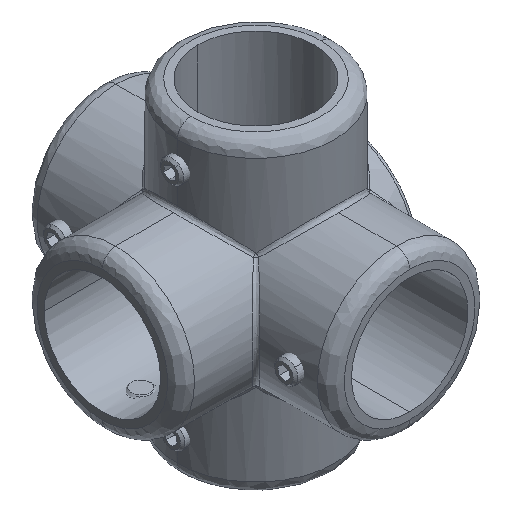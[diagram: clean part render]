
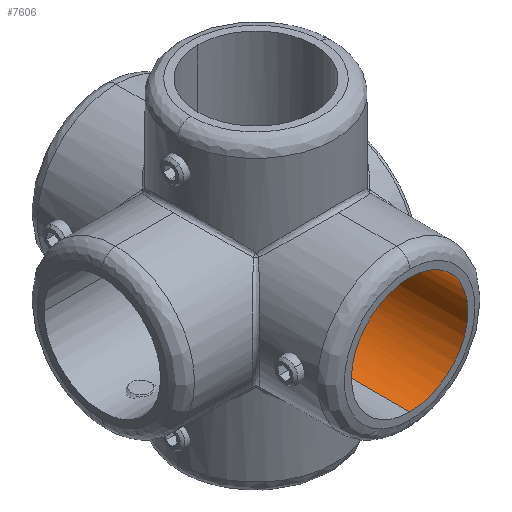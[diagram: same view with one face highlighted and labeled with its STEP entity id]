
A CAD part, isometric view. The second image highlights one B-rep face of the part: STEP entity #7606.
In plain terms, the highlighted cylindrical face has radius 15.15 mm (diameter 30.3 mm), a partial arc.
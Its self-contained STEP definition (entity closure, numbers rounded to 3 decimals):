
#128 = EDGE_CURVE ( 'NONE', #3438, #8969, #9366, .T. ) ;
#578 = CARTESIAN_POINT ( 'NONE',  ( 0., -40., 15.15 ) ) ;
#759 = ORIENTED_EDGE ( 'NONE', *, *, #7221, .T. ) ;
#786 = CARTESIAN_POINT ( 'NONE',  ( 15.15, -8.875, -8.875 ) ) ;
#821 = CARTESIAN_POINT ( 'NONE',  ( 8.875, -15.15, -15.15 ) ) ;
#1114 = DIRECTION ( 'NONE',  ( 0., -1., 0. ) ) ;
#1134 = CARTESIAN_POINT ( 'NONE',  ( 0., 0., 0. ) ) ;
#1186 = AXIS2_PLACEMENT_3D ( 'NONE', #3328, #7823, #4888 ) ;
#1267 = CARTESIAN_POINT ( 'NONE',  ( 0., -40., -15.15 ) ) ;
#1329 = AXIS2_PLACEMENT_3D ( 'NONE', #1134, #3987, #4737 ) ;
#1557 =( BOUNDED_CURVE ( )  B_SPLINE_CURVE ( 3, ( #5213, #786, #821, #2978 ),
 .UNSPECIFIED., .F., .F. ) 
 B_SPLINE_CURVE_WITH_KNOTS ( ( 4, 4 ),
 ( 4.712, 6.283 ),
 .UNSPECIFIED. ) 
 CURVE ( )  GEOMETRIC_REPRESENTATION_ITEM ( )  RATIONAL_B_SPLINE_CURVE ( ( 1., 0.805, 0.805, 1. ) ) 
 REPRESENTATION_ITEM ( '' )  );
#1607 = CYLINDRICAL_SURFACE ( 'NONE', #1329, 15.15 ) ;
#2072 = VERTEX_POINT ( 'NONE', #8490 ) ;
#2251 = ORIENTED_EDGE ( 'NONE', *, *, #6164, .T. ) ;
#2332 = CARTESIAN_POINT ( 'NONE',  ( 0., -15.15, 15.15 ) ) ;
#2609 = ORIENTED_EDGE ( 'NONE', *, *, #128, .T. ) ;
#2844 = VERTEX_POINT ( 'NONE', #578 ) ;
#2873 = ORIENTED_EDGE ( 'NONE', *, *, #6846, .F. ) ;
#2978 = CARTESIAN_POINT ( 'NONE',  ( 0., -15.15, -15.15 ) ) ;
#3328 = CARTESIAN_POINT ( 'NONE',  ( 0., -40., 0. ) ) ;
#3438 = VERTEX_POINT ( 'NONE', #9344 ) ;
#3987 = DIRECTION ( 'NONE',  ( 0., -1., 0. ) ) ;
#4196 = VERTEX_POINT ( 'NONE', #5635 ) ;
#4644 = CARTESIAN_POINT ( 'NONE',  ( 15.15, 0., 0. ) ) ;
#4676 = FACE_OUTER_BOUND ( 'NONE', #9361, .T. ) ;
#4737 = DIRECTION ( 'NONE',  ( 0., 0., -1. ) ) ;
#4815 = VECTOR ( 'NONE', #1114, 1000. ) ;
#4888 = DIRECTION ( 'NONE',  ( 0., 0., -1. ) ) ;
#5193 = EDGE_CURVE ( 'NONE', #2844, #8969, #8674, .T. ) ;
#5213 = CARTESIAN_POINT ( 'NONE',  ( 15.15, 0., 0. ) ) ;
#5489 = CARTESIAN_POINT ( 'NONE',  ( 0., 0., -15.15 ) ) ;
#5635 = CARTESIAN_POINT ( 'NONE',  ( 15.15, 0., 0. ) ) ;
#6021 = CARTESIAN_POINT ( 'NONE',  ( 8.875, -15.15, 15.15 ) ) ;
#6164 = EDGE_CURVE ( 'NONE', #2072, #4196, #6751, .T. ) ;
#6309 = CARTESIAN_POINT ( 'NONE',  ( 0., 0., 15.15 ) ) ;
#6570 = LINE ( 'NONE', #6309, #9119 ) ;
#6751 =( BOUNDED_CURVE ( )  B_SPLINE_CURVE ( 3, ( #2332, #6021, #7644, #4644 ),
 .UNSPECIFIED., .F., .F. ) 
 B_SPLINE_CURVE_WITH_KNOTS ( ( 4, 4 ),
 ( 0., 1.571 ),
 .UNSPECIFIED. ) 
 CURVE ( )  GEOMETRIC_REPRESENTATION_ITEM ( )  RATIONAL_B_SPLINE_CURVE ( ( 1., 0.805, 0.805, 1. ) ) 
 REPRESENTATION_ITEM ( '' )  );
#6846 = EDGE_CURVE ( 'NONE', #2072, #2844, #6570, .T. ) ;
#7221 = EDGE_CURVE ( 'NONE', #4196, #3438, #1557, .T. ) ;
#7606 = ADVANCED_FACE ( 'NONE', ( #4676 ), #1607, .F. ) ;
#7644 = CARTESIAN_POINT ( 'NONE',  ( 15.15, -8.875, 8.875 ) ) ;
#7740 = DIRECTION ( 'NONE',  ( 0., -1., 0. ) ) ;
#7823 = DIRECTION ( 'NONE',  ( 0., 1., 0. ) ) ;
#7826 = ORIENTED_EDGE ( 'NONE', *, *, #5193, .F. ) ;
#8490 = CARTESIAN_POINT ( 'NONE',  ( 0., -15.15, 15.15 ) ) ;
#8674 = CIRCLE ( 'NONE', #1186, 15.15 ) ;
#8969 = VERTEX_POINT ( 'NONE', #1267 ) ;
#9119 = VECTOR ( 'NONE', #7740, 1000. ) ;
#9344 = CARTESIAN_POINT ( 'NONE',  ( 0., -15.15, -15.15 ) ) ;
#9361 = EDGE_LOOP ( 'NONE', ( #2873, #2251, #759, #2609, #7826 ) ) ;
#9366 = LINE ( 'NONE', #5489, #4815 ) ;
